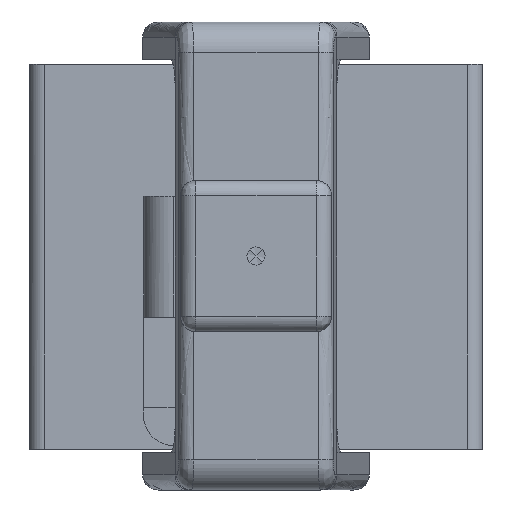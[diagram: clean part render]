
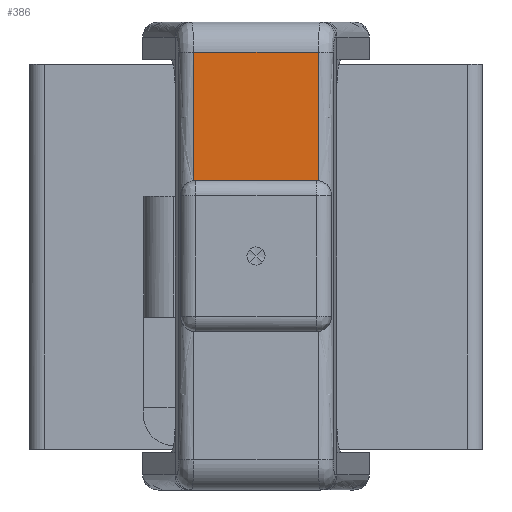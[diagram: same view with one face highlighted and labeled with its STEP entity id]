
A CAD part, front view. The second image highlights one B-rep face of the part: STEP entity #386.
In plain terms, the highlighted planar face has unit normal (0, -1, 0).
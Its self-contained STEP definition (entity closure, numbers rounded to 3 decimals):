
#386=ADVANCED_FACE('',(#757),#5839,.T.);
#757=FACE_OUTER_BOUND('',#1166,.T.);
#1166=EDGE_LOOP('',(#2208,#2209,#2210,#2211,#2212,#2213));
#2208=ORIENTED_EDGE('',*,*,#3671,.T.);
#2209=ORIENTED_EDGE('',*,*,#3678,.F.);
#2210=ORIENTED_EDGE('',*,*,#3628,.F.);
#2211=ORIENTED_EDGE('',*,*,#3630,.F.);
#2212=ORIENTED_EDGE('',*,*,#3684,.F.);
#2213=ORIENTED_EDGE('',*,*,#3680,.F.);
#3628=EDGE_CURVE('',#5419,#5433,#4415,.T.);
#3630=EDGE_CURVE('',#5418,#5419,#4417,.T.);
#3671=EDGE_CURVE('',#5425,#5426,#4428,.T.);
#3678=EDGE_CURVE('',#5433,#5426,#4959,.T.);
#3680=EDGE_CURVE('',#5425,#5434,#4960,.T.);
#3684=EDGE_CURVE('',#5434,#5418,#4435,.T.);
#4415=B_SPLINE_CURVE_WITH_KNOTS('',1,(#9241,#9242),.UNSPECIFIED.,.F.,.F.,
(2,2),(0.,17.018),.UNSPECIFIED.);
#4417=B_SPLINE_CURVE_WITH_KNOTS('',1,(#9245,#9246),.UNSPECIFIED.,.F.,.F.,
(2,2),(1.735,18.265),.UNSPECIFIED.);
#4428=B_SPLINE_CURVE_WITH_KNOTS('',1,(#9515,#9516),.UNSPECIFIED.,.F.,.F.,
(2,2),(-8.,8.),.UNSPECIFIED.);
#4435=B_SPLINE_CURVE_WITH_KNOTS('',1,(#9593,#9594),.UNSPECIFIED.,.F.,.F.,
(2,2),(36.982,54.),.UNSPECIFIED.);
#4959=(
BOUNDED_CURVE()
B_SPLINE_CURVE(2,(#9555,#9556,#9557),.UNSPECIFIED.,.F.,.F.)
B_SPLINE_CURVE_WITH_KNOTS((3,3),(2.853,3.142),
 .UNSPECIFIED.)
CURVE()
GEOMETRIC_REPRESENTATION_ITEM()
RATIONAL_B_SPLINE_CURVE((1.,0.998,1.))
REPRESENTATION_ITEM('')
);
#4960=(
BOUNDED_CURVE()
B_SPLINE_CURVE(2,(#9572,#9573,#9574),.UNSPECIFIED.,.F.,.F.)
B_SPLINE_CURVE_WITH_KNOTS((3,3),(0.,0.288),.UNSPECIFIED.)
CURVE()
GEOMETRIC_REPRESENTATION_ITEM()
RATIONAL_B_SPLINE_CURVE((1.,0.998,1.))
REPRESENTATION_ITEM('')
);
#5418=VERTEX_POINT('',#8826);
#5419=VERTEX_POINT('',#8827);
#5425=VERTEX_POINT('',#8833);
#5426=VERTEX_POINT('',#8834);
#5433=VERTEX_POINT('',#8841);
#5434=VERTEX_POINT('',#8842);
#5839=PLANE('',#6229);
#6229=AXIS2_PLACEMENT_3D('',#8140,#6430,$);
#6430=DIRECTION('',(0.,-1.,0.));
#8140=CARTESIAN_POINT('',(-15.,-84.85,-30.9));
#8826=CARTESIAN_POINT('',(-8.265,-84.85,27.1));
#8827=CARTESIAN_POINT('',(8.265,-84.85,27.1));
#8833=CARTESIAN_POINT('',(-8.,-84.85,10.1));
#8834=CARTESIAN_POINT('',(8.,-84.85,10.1));
#8841=CARTESIAN_POINT('',(8.265,-84.85,10.082));
#8842=CARTESIAN_POINT('',(-8.265,-84.85,10.082));
#9241=CARTESIAN_POINT('',(8.265,-84.85,27.1));
#9242=CARTESIAN_POINT('',(8.265,-84.85,10.082));
#9245=CARTESIAN_POINT('',(-8.265,-84.85,27.1));
#9246=CARTESIAN_POINT('',(8.265,-84.85,27.1));
#9515=CARTESIAN_POINT('',(-8.,-84.85,10.1));
#9516=CARTESIAN_POINT('',(8.,-84.85,10.1));
#9555=CARTESIAN_POINT('',(8.265,-84.85,10.082));
#9556=CARTESIAN_POINT('',(8.133,-84.85,10.1));
#9557=CARTESIAN_POINT('',(8.,-84.85,10.1));
#9572=CARTESIAN_POINT('',(-8.,-84.85,10.1));
#9573=CARTESIAN_POINT('',(-8.133,-84.85,10.1));
#9574=CARTESIAN_POINT('',(-8.265,-84.85,10.082));
#9593=CARTESIAN_POINT('',(-8.265,-84.85,10.082));
#9594=CARTESIAN_POINT('',(-8.265,-84.85,27.1));
